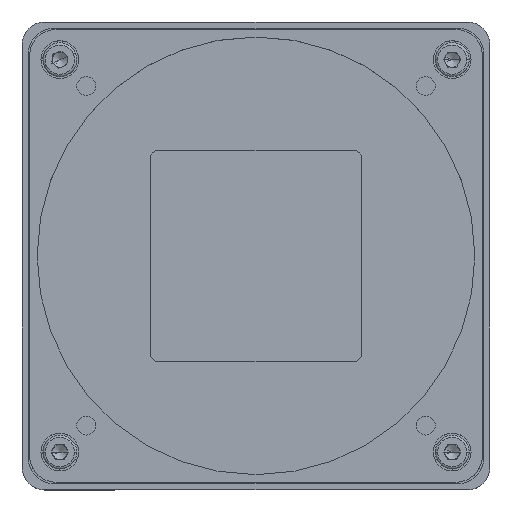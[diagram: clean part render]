
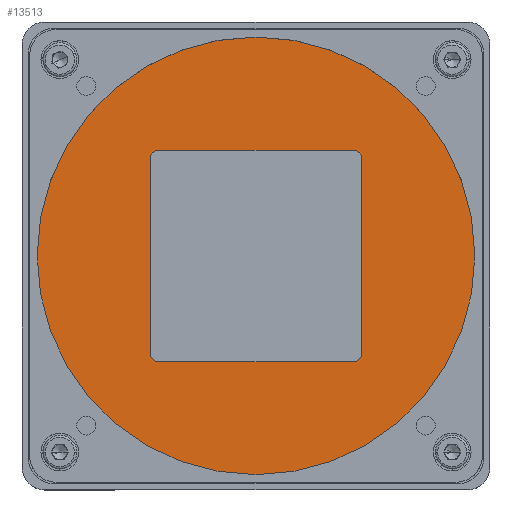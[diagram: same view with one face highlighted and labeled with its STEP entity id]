
A CAD part, top view. The second image highlights one B-rep face of the part: STEP entity #13513.
In plain terms, the highlighted planar face has unit normal (0, 0, 1).
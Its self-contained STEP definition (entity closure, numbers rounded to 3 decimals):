
#13 = CARTESIAN_POINT ( 'NONE',  ( 0., 0., -3.23 ) ) ;
#56 = DIRECTION ( 'NONE',  ( 0., 0., -1. ) ) ;
#99 = FACE_BOUND ( 'NONE', #14480, .T. ) ;
#276 = EDGE_CURVE ( 'NONE', #11332, #10747, #14377, .T. ) ;
#497 = CIRCLE ( 'NONE', #19533, 1. ) ;
#558 = CARTESIAN_POINT ( 'NONE',  ( 14., 13., -3.23 ) ) ;
#912 = CARTESIAN_POINT ( 'NONE',  ( 14., -13., -3.23 ) ) ;
#959 = CARTESIAN_POINT ( 'NONE',  ( -14., -14., -3.23 ) ) ;
#1320 = CARTESIAN_POINT ( 'NONE',  ( 0., 0., -3.23 ) ) ;
#1422 = VERTEX_POINT ( 'NONE', #912 ) ;
#1581 = CARTESIAN_POINT ( 'NONE',  ( 0., 0., -3.23 ) ) ;
#2146 = ORIENTED_EDGE ( 'NONE', *, *, #276, .T. ) ;
#2337 = CARTESIAN_POINT ( 'NONE',  ( 13., 13., -3.23 ) ) ;
#2365 = VERTEX_POINT ( 'NONE', #20757 ) ;
#2460 = EDGE_CURVE ( 'NONE', #18932, #12442, #22282, .T. ) ;
#2545 = CARTESIAN_POINT ( 'NONE',  ( -13., -14., -3.23 ) ) ;
#2711 = EDGE_CURVE ( 'NONE', #11332, #6151, #8805, .T. ) ;
#3031 = CARTESIAN_POINT ( 'NONE',  ( 14., -14., -3.23 ) ) ;
#3500 = ORIENTED_EDGE ( 'NONE', *, *, #2711, .F. ) ;
#3751 = DIRECTION ( 'NONE',  ( 0., -1., 0. ) ) ;
#4058 = VERTEX_POINT ( 'NONE', #15880 ) ;
#4322 = DIRECTION ( 'NONE',  ( 0., 0., 1. ) ) ;
#4779 = VECTOR ( 'NONE', #11039, 1000. ) ;
#5103 = CARTESIAN_POINT ( 'NONE',  ( 13., 14., -3.23 ) ) ;
#5457 = CARTESIAN_POINT ( 'NONE',  ( -14., 13., -3.23 ) ) ;
#5803 = LINE ( 'NONE', #7695, #4779 ) ;
#6151 = VERTEX_POINT ( 'NONE', #8951 ) ;
#6404 = CARTESIAN_POINT ( 'NONE',  ( -13., -13., -3.23 ) ) ;
#6969 = VERTEX_POINT ( 'NONE', #5103 ) ;
#7407 = ORIENTED_EDGE ( 'NONE', *, *, #16085, .F. ) ;
#7668 = AXIS2_PLACEMENT_3D ( 'NONE', #13, #12379, #3751 ) ;
#7695 = CARTESIAN_POINT ( 'NONE',  ( -14., 14., -3.23 ) ) ;
#7805 = ORIENTED_EDGE ( 'NONE', *, *, #19207, .F. ) ;
#8119 = ORIENTED_EDGE ( 'NONE', *, *, #21283, .T. ) ;
#8327 = DIRECTION ( 'NONE',  ( 0., -1., 0. ) ) ;
#8805 = LINE ( 'NONE', #959, #18912 ) ;
#8889 = ORIENTED_EDGE ( 'NONE', *, *, #11234, .T. ) ;
#8951 = CARTESIAN_POINT ( 'NONE',  ( 13., -14., -3.23 ) ) ;
#9918 = CARTESIAN_POINT ( 'NONE',  ( -13., 13., -3.23 ) ) ;
#10388 = DIRECTION ( 'NONE',  ( 0., -1., 0. ) ) ;
#10747 = VERTEX_POINT ( 'NONE', #16425 ) ;
#10960 = AXIS2_PLACEMENT_3D ( 'NONE', #6404, #56, #13143 ) ;
#11039 = DIRECTION ( 'NONE',  ( -1., 0., 0. ) ) ;
#11102 = EDGE_LOOP ( 'NONE', ( #8119, #20879 ) ) ;
#11234 = EDGE_CURVE ( 'NONE', #1422, #6151, #20286, .T. ) ;
#11332 = VERTEX_POINT ( 'NONE', #2545 ) ;
#11438 = AXIS2_PLACEMENT_3D ( 'NONE', #1581, #12817, #20281 ) ;
#11475 = DIRECTION ( 'NONE',  ( 0., 0., -1. ) ) ;
#11482 = CARTESIAN_POINT ( 'NONE',  ( -14., -14., -3.23 ) ) ;
#11615 = CARTESIAN_POINT ( 'NONE',  ( -13., 14., -3.23 ) ) ;
#12379 = DIRECTION ( 'NONE',  ( 0., 0., 1. ) ) ;
#12442 = VERTEX_POINT ( 'NONE', #11615 ) ;
#12817 = DIRECTION ( 'NONE',  ( 0., 0., 1. ) ) ;
#13143 = DIRECTION ( 'NONE',  ( 0., -1., 0. ) ) ;
#13208 = ORIENTED_EDGE ( 'NONE', *, *, #19729, .T. ) ;
#13513 = ADVANCED_FACE ( 'NONE', ( #99, #18790 ), #17649, .T. ) ;
#13687 = AXIS2_PLACEMENT_3D ( 'NONE', #9918, #14029, #18919 ) ;
#13854 = LINE ( 'NONE', #3031, #16343 ) ;
#14029 = DIRECTION ( 'NONE',  ( 0., 0., -1. ) ) ;
#14214 = DIRECTION ( 'NONE',  ( 0., 1., 0. ) ) ;
#14370 = DIRECTION ( 'NONE',  ( 0., -1., 0. ) ) ;
#14377 = CIRCLE ( 'NONE', #10960, 1. ) ;
#14480 = EDGE_LOOP ( 'NONE', ( #7805, #8889, #3500, #2146, #7407, #20895, #20907, #13208 ) ) ;
#14831 = AXIS2_PLACEMENT_3D ( 'NONE', #1320, #4322, #14370 ) ;
#15412 = DIRECTION ( 'NONE',  ( 0., 0., -1. ) ) ;
#15857 = VERTEX_POINT ( 'NONE', #558 ) ;
#15880 = CARTESIAN_POINT ( 'NONE',  ( 0., 29., -3.23 ) ) ;
#16085 = EDGE_CURVE ( 'NONE', #18932, #10747, #21625, .T. ) ;
#16343 = VECTOR ( 'NONE', #14214, 1000. ) ;
#16425 = CARTESIAN_POINT ( 'NONE',  ( -14., -13., -3.23 ) ) ;
#16674 = CARTESIAN_POINT ( 'NONE',  ( 13., -13., -3.23 ) ) ;
#16965 = CIRCLE ( 'NONE', #14831, 29. ) ;
#17033 = EDGE_CURVE ( 'NONE', #6969, #12442, #5803, .T. ) ;
#17649 = PLANE ( 'NONE',  #11438 ) ;
#18387 = CIRCLE ( 'NONE', #7668, 29. ) ;
#18790 = FACE_OUTER_BOUND ( 'NONE', #11102, .T. ) ;
#18912 = VECTOR ( 'NONE', #20053, 1000. ) ;
#18919 = DIRECTION ( 'NONE',  ( 0., -1., 0. ) ) ;
#18932 = VERTEX_POINT ( 'NONE', #5457 ) ;
#19207 = EDGE_CURVE ( 'NONE', #1422, #15857, #13854, .T. ) ;
#19533 = AXIS2_PLACEMENT_3D ( 'NONE', #2337, #15412, #8327 ) ;
#19729 = EDGE_CURVE ( 'NONE', #6969, #15857, #497, .T. ) ;
#19898 = EDGE_CURVE ( 'NONE', #4058, #2365, #18387, .T. ) ;
#20053 = DIRECTION ( 'NONE',  ( 1., 0., 0. ) ) ;
#20281 = DIRECTION ( 'NONE',  ( 0., -1., 0. ) ) ;
#20286 = CIRCLE ( 'NONE', #22729, 1. ) ;
#20757 = CARTESIAN_POINT ( 'NONE',  ( 0., -29., -3.23 ) ) ;
#20851 = DIRECTION ( 'NONE',  ( 0., -1., 0. ) ) ;
#20879 = ORIENTED_EDGE ( 'NONE', *, *, #19898, .T. ) ;
#20895 = ORIENTED_EDGE ( 'NONE', *, *, #2460, .T. ) ;
#20907 = ORIENTED_EDGE ( 'NONE', *, *, #17033, .F. ) ;
#21283 = EDGE_CURVE ( 'NONE', #2365, #4058, #16965, .T. ) ;
#21625 = LINE ( 'NONE', #11482, #22567 ) ;
#22282 = CIRCLE ( 'NONE', #13687, 1. ) ;
#22567 = VECTOR ( 'NONE', #10388, 1000. ) ;
#22729 = AXIS2_PLACEMENT_3D ( 'NONE', #16674, #11475, #20851 ) ;
